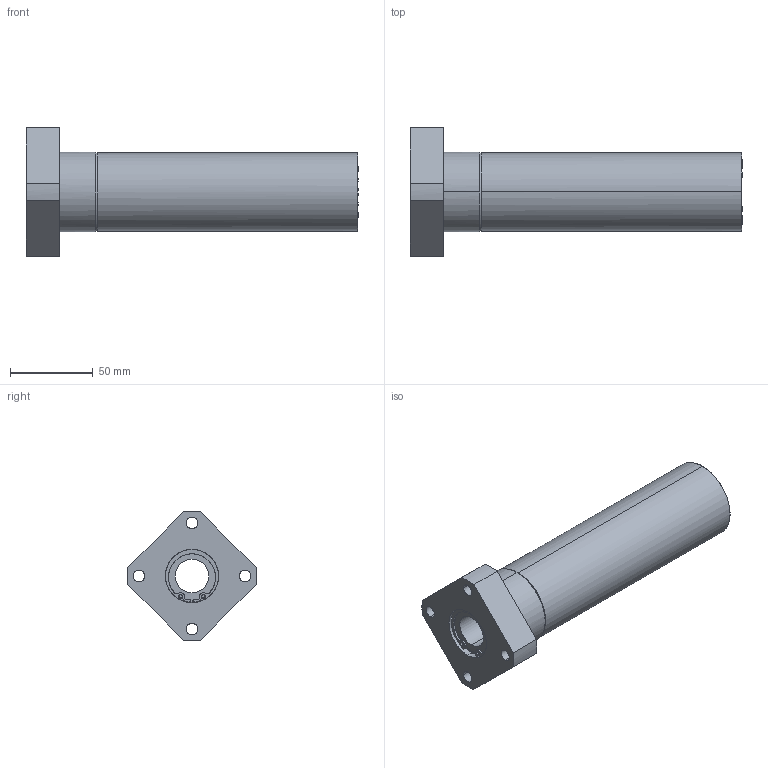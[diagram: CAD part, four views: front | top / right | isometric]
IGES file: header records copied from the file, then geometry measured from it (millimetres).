
Global section: file name: No Iges File Name specified; native system: AutoDesk Inventor R11.0; preprocessor: AutoDesk Inventor Iges Exporter R11.0; author: No Author specified; organization: No Organization specified; date: 20170922.134337; units: millimetre
Bounding box: 200 x 77.99 x 78 mm (x, y, z)
Surface area: 56814.7 mm2 (no closed solid volume)
Topology: 0 solids, 0 shells, 130 faces, 936 edges, 936 vertices
Faces by surface type: bspline 130
